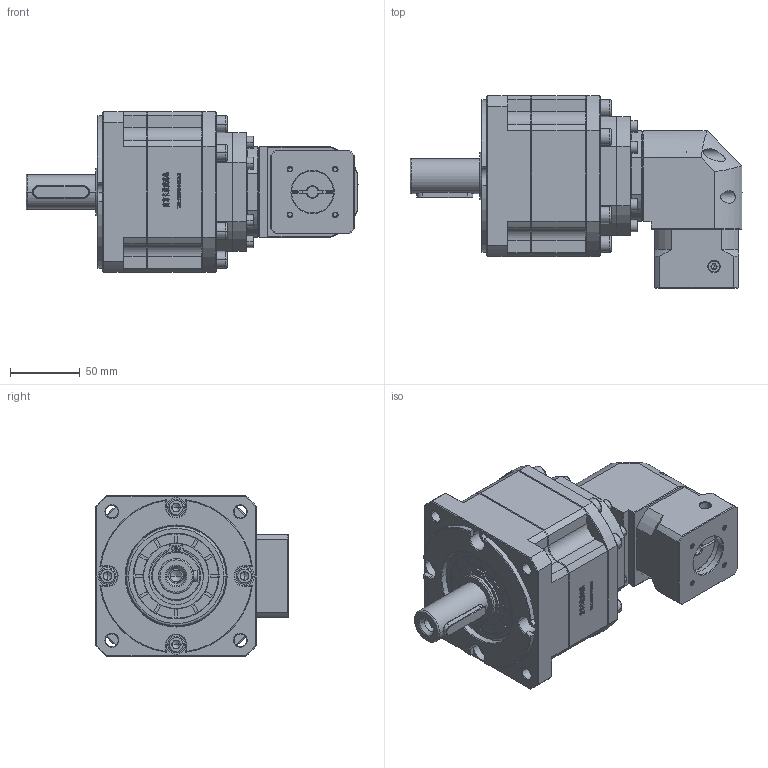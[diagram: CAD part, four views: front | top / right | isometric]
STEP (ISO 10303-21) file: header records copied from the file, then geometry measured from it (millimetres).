
FILE_DESCRIPTION (( 'STEP AP214' ), '1' );
FILE_NAME ('ZB115A-D25-L3-8-30-46-M4.step', '2023-03-03T08:03:02', ( '' ), ( 'Microsoft' ), 'SwSTEP 2.0', 'SolidWorks 2016', '' );
FILE_SCHEMA (( 'AUTOMOTIVE_DESIGN' ));
Length unit declared in the file: millimetre
Products named in the file (1): ZB115A-D25-L3-8-30-46-M4
Bounding box: 237.5 x 137.7 x 115 mm (x, y, z)
Volume: 1558703 mm3; surface area: 146587.1 mm2
Topology: 6 solids, 6 shells, 3282 faces, 8762 edges, 5647 vertices
Faces by surface type: plane 1717, bspline 689, cylinder 469, cone 387, torus 20
Entity records: 191744 total; most frequent: CARTESIAN_POINT 79085, ORIENTED_EDGE 17416, DIRECTION 13331, EDGE_CURVE 8708, LINE 5659, VECTOR 5659, VERTEX_POINT 5647, AXIS2_PLACEMENT_3D 3836
